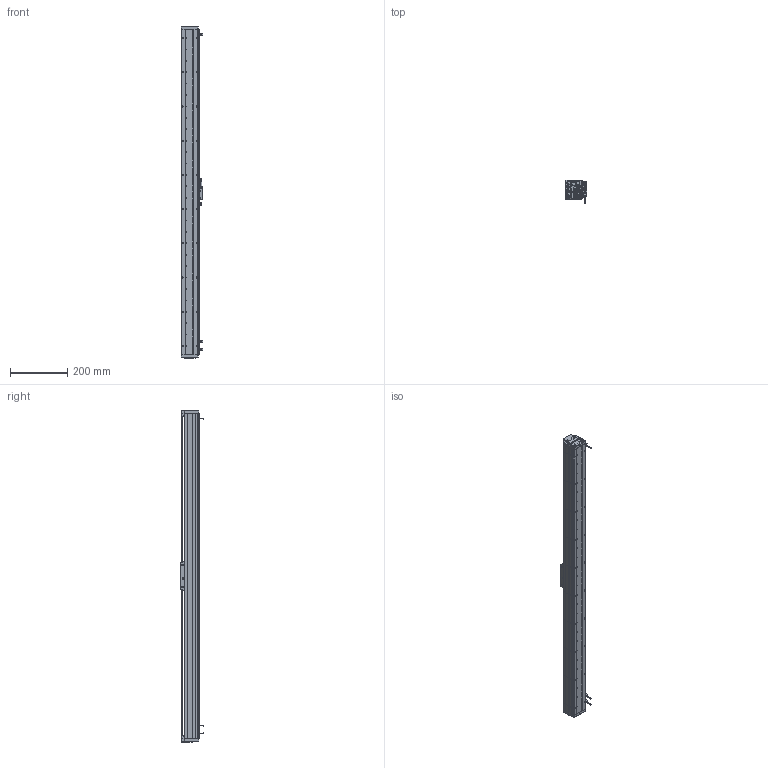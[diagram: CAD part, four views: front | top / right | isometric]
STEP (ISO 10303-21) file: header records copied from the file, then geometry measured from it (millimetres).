
FILE_DESCRIPTION (( 'STEP AP203' ), '1' );
FILE_NAME ('DA-A60-B1-T1000-C010-0.2 眻盄萇儂.STEP', '2025-08-13T02:02:26', ( '' ), ( '' ), 'SwSTEP 2.0', 'SolidWorks 2019', '' );
FILE_SCHEMA (( 'CONFIG_CONTROL_DESIGN' ));
Length unit declared in the file: millimetre
Products named in the file (21): 复件 纯铜油杯 6x6mm^AU60-V 滚珠滑台; 复件 DA60-DG-H-N-00 端盖^DA-A60-B1-T-C010-0.2-N 直线电机; DA60-YT-B1-HT-B-01 珨极趙賑雄怢啣; DA60-B1-HT-B-03 賑雄怢啣; 葩璃 PM-T45^DA-A60-B1-T-C010-0.2-N 眻盄萇儂; AU60-L 菁釱絳寢; 复件 DA60-DMT-DTJ-00 读数头支架^DA-A60-B1-T-C010-0.2-N 直线电机; 复件 BAKM01-W030-C1-TP-0.2 直线电机动子^DA-A60-B1-T-C010-0.2-N 直线电机; 复件 DA60-XJ-00 橡胶挡块^DA-A60-B1-T-C010-0.2-N 直线电机; 葩璃 DMT-010 1米m 0.2M^DA-A60-B1-T-C010-0.2-N 眻盄萇儂; DA-A60-B1-T1000-C010-0.2 眻盄萇儂; 复件 DA-A60-GYP-DMT-00 光电感应片^DA-A60-B1-T-C010-0.2-N 直线电机(默认); IU-AU60-L-00 菁釱(1140); 葩璃 DA60-HK-DP-01 結え^AU60-V 幗紩賑怢; 复件 六角薄螺母 M3^DA-A60-B1-T-C010-0.2-N 直线电机(GB_FASTENER_NUT_STNAB M3-C); 复件 XD-U-02  磁栅尺^DA-A60-B1-T-C010-0.2-N 直线电机; AU60-V 幗紩賑怢; 复件 DA60-GT-T-00 底座钢轨^AU60-L 底座导轨; 复件 DA60-B1-GT-00 滑块钢轨^DA60-YT-B1-HT-B-01 一体化滑动台板; DA60-T-002-00  裔啣; 葩璃 AKM01-W030-TRL^DA-A60-B1-T-C010-0.2-N 眻盄萇儂
Assembly tree (33 placements, depth 4):
  DA-A60-B1-T1000-C010-0.2 眻盄萇儂
    AU60-L 菁釱絳寢
      IU-AU60-L-00 菁釱(1140)
      复件 DA60-GT-T-00 底座钢轨^AU60-L 底座导轨  x2
    AU60-V 幗紩賑怢
      DA60-YT-B1-HT-B-01 珨极趙賑雄怢啣
        DA60-B1-HT-B-03 賑雄怢啣
        复件 DA60-B1-GT-00 滑块钢轨^DA60-YT-B1-HT-B-01 一体化滑动台板  x2
      葩璃 DA60-HK-DP-01 結え^AU60-V 幗紩賑怢  x2
      复件 纯铜油杯 6x6mm^AU60-V 滚珠滑台
    复件 DA-A60-GYP-DMT-00 光电感应片^DA-A60-B1-T-C010-0.2-N 直线电机(默认)  x2
    复件 DA60-DMT-DTJ-00 读数头支架^DA-A60-B1-T-C010-0.2-N 直线电机
    葩璃 DMT-010 1米m 0.2M^DA-A60-B1-T-C010-0.2-N 眻盄萇儂
    复件 BAKM01-W030-C1-TP-0.2 直线电机动子^DA-A60-B1-T-C010-0.2-N 直线电机
    复件 DA60-XJ-00 橡胶挡块^DA-A60-B1-T-C010-0.2-N 直线电机  x2
    复件 DA60-DG-H-N-00 端盖^DA-A60-B1-T-C010-0.2-N 直线电机  x2
    DA60-T-002-00  裔啣
    葩璃 AKM01-W030-TRL^DA-A60-B1-T-C010-0.2-N 眻盄萇儂
    葩璃 PM-T45^DA-A60-B1-T-C010-0.2-N 眻盄萇儂  x3
    复件 XD-U-02  磁栅尺^DA-A60-B1-T-C010-0.2-N 直线电机
    复件 六角薄螺母 M3^DA-A60-B1-T-C010-0.2-N 直线电机(GB_FASTENER_NUT_STNAB M3-C)  x6
Bounding box: 76.95 x 80 x 1164 mm (x, y, z)
Volume: 2334757.4 mm3; surface area: 832730.8 mm2
Topology: 35 solids, 37 shells, 3155 faces, 8280 edges, 5061 vertices
Faces by surface type: cylinder 1262, plane 1059, bspline 577, cone 248, torus 8, sphere 1
Entity records: 82821 total; most frequent: CARTESIAN_POINT 26306, ORIENTED_EDGE 11816, DIRECTION 10685, EDGE_CURVE 5908, AXIS2_PLACEMENT_3D 3838, VERTEX_POINT 3732, LINE 3009, VECTOR 3009
